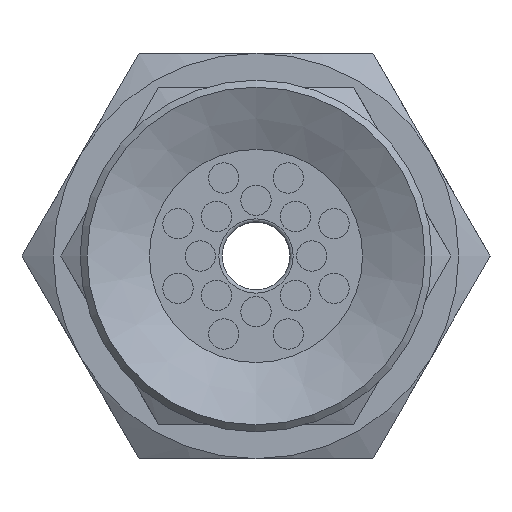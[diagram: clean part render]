
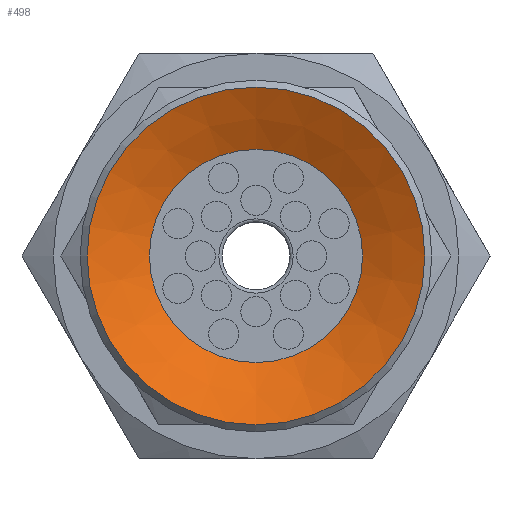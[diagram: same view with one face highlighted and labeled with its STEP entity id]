
A CAD part, front view. The second image highlights one B-rep face of the part: STEP entity #498.
In plain terms, the highlighted conical face has half-angle 64 degrees and reference radius 5 mm.
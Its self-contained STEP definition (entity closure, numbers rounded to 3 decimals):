
#498=ADVANCED_FACE('',(#801,#802),#803,.F.);
#801=FACE_BOUND('',#1146,.T.);
#802=FACE_OUTER_BOUND('',#1147,.T.);
#803=CONICAL_SURFACE('',#1148,5.0,1.117);
#1146=EDGE_LOOP('',(#1830));
#1147=EDGE_LOOP('',(#1831));
#1148=AXIS2_PLACEMENT_3D('',#1832,#1833,#1834);
#1830=ORIENTED_EDGE('',*,*,#2186,.T.);
#1831=ORIENTED_EDGE('',*,*,#2176,.F.);
#1832=CARTESIAN_POINT('',(0.0,-12.769,0.));
#1833=DIRECTION('',(0.0,0.,-1.0));
#1834=DIRECTION('',(0.0,1.0,0.));
#2176=EDGE_CURVE('',#2493,#2493,#2494,.T.);
#2186=EDGE_CURVE('',#2513,#2513,#2514,.T.);
#2493=VERTEX_POINT('',#3149);
#2494=CIRCLE('',#3150,5.0);
#2513=VERTEX_POINT('',#3169);
#2514=CIRCLE('',#3170,3.155);
#3149=CARTESIAN_POINT('',(0.0,-17.769,0.));
#3150=AXIS2_PLACEMENT_3D('',#3575,#3576,#3577);
#3169=CARTESIAN_POINT('',(0.0,-15.924,0.9));
#3170=AXIS2_PLACEMENT_3D('',#3605,#3606,#3607);
#3575=CARTESIAN_POINT('',(0.0,-12.769,0.));
#3576=DIRECTION('',(0.0,0.,1.0));
#3577=DIRECTION('',(0.0,-1.0,0.));
#3605=CARTESIAN_POINT('',(0.0,-12.769,0.9));
#3606=DIRECTION('',(0.0,0.,1.0));
#3607=DIRECTION('',(0.0,-1.0,0.));
